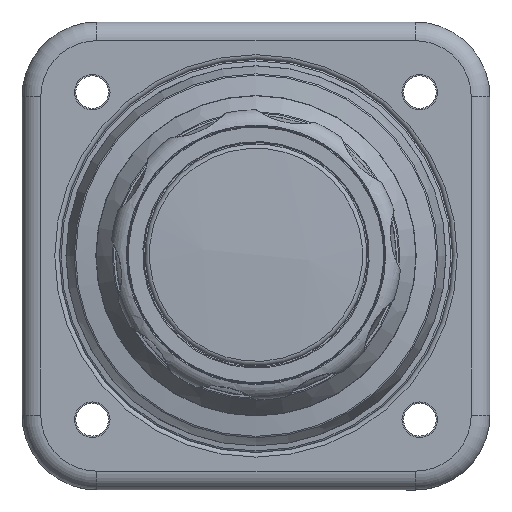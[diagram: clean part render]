
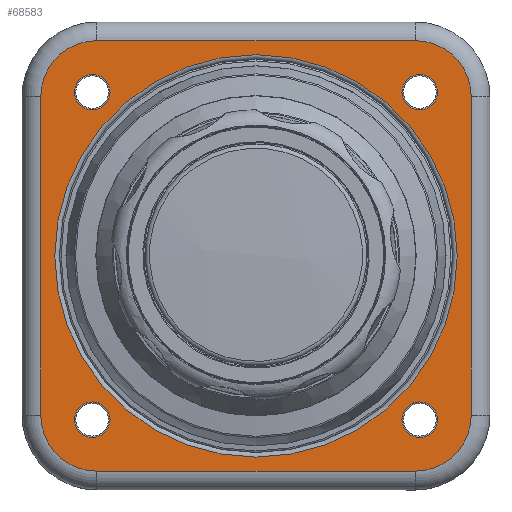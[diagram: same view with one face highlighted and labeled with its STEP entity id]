
A CAD part, top view. The second image highlights one B-rep face of the part: STEP entity #68583.
In plain terms, the highlighted planar face has unit normal (0, 0, 1).
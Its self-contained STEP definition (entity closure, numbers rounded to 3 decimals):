
#352=FACE_BOUND('',#9676,.T.);
#353=FACE_BOUND('',#9677,.T.);
#354=FACE_BOUND('',#9678,.T.);
#355=FACE_BOUND('',#9679,.T.);
#356=FACE_BOUND('',#9680,.T.);
#3024=PLANE('',#72341);
#6062=FACE_OUTER_BOUND('',#9675,.T.);
#9675=EDGE_LOOP('',(#59386,#59387,#59388,#59389,#59390,#59391,#59392,#59393));
#9676=EDGE_LOOP('',(#59394));
#9677=EDGE_LOOP('',(#59395));
#9678=EDGE_LOOP('',(#59396));
#9679=EDGE_LOOP('',(#59397));
#9680=EDGE_LOOP('',(#59398));
#10970=CIRCLE('',#72337,21.5);
#10974=CIRCLE('',#72342,6.);
#10975=CIRCLE('',#72343,6.);
#10976=CIRCLE('',#72344,6.);
#10977=CIRCLE('',#72345,6.);
#10978=CIRCLE('',#72346,1.9);
#10979=CIRCLE('',#72347,1.9);
#10980=CIRCLE('',#72348,1.9);
#10981=CIRCLE('',#72349,1.9);
#19118=LINE('',#106774,#27445);
#19119=LINE('',#106778,#27446);
#19120=LINE('',#106782,#27447);
#19121=LINE('',#106785,#27448);
#27445=VECTOR('',#87197,10.);
#27446=VECTOR('',#87200,10.);
#27447=VECTOR('',#87203,10.);
#27448=VECTOR('',#87206,10.);
#33488=VERTEX_POINT('',#106762);
#33491=VERTEX_POINT('',#106770);
#33492=VERTEX_POINT('',#106771);
#33493=VERTEX_POINT('',#106773);
#33494=VERTEX_POINT('',#106775);
#33495=VERTEX_POINT('',#106777);
#33496=VERTEX_POINT('',#106779);
#33497=VERTEX_POINT('',#106781);
#33498=VERTEX_POINT('',#106783);
#33499=VERTEX_POINT('',#106786);
#33500=VERTEX_POINT('',#106788);
#33501=VERTEX_POINT('',#106790);
#33502=VERTEX_POINT('',#106792);
#42336=EDGE_CURVE('',#33488,#33488,#10970,.T.);
#42340=EDGE_CURVE('',#33491,#33492,#10974,.T.);
#42341=EDGE_CURVE('',#33493,#33491,#19118,.T.);
#42342=EDGE_CURVE('',#33494,#33493,#10975,.T.);
#42343=EDGE_CURVE('',#33495,#33494,#19119,.T.);
#42344=EDGE_CURVE('',#33496,#33495,#10976,.T.);
#42345=EDGE_CURVE('',#33497,#33496,#19120,.T.);
#42346=EDGE_CURVE('',#33498,#33497,#10977,.T.);
#42347=EDGE_CURVE('',#33492,#33498,#19121,.T.);
#42348=EDGE_CURVE('',#33499,#33499,#10978,.T.);
#42349=EDGE_CURVE('',#33500,#33500,#10979,.T.);
#42350=EDGE_CURVE('',#33501,#33501,#10980,.T.);
#42351=EDGE_CURVE('',#33502,#33502,#10981,.T.);
#59386=ORIENTED_EDGE('',*,*,#42340,.F.);
#59387=ORIENTED_EDGE('',*,*,#42341,.F.);
#59388=ORIENTED_EDGE('',*,*,#42342,.F.);
#59389=ORIENTED_EDGE('',*,*,#42343,.F.);
#59390=ORIENTED_EDGE('',*,*,#42344,.F.);
#59391=ORIENTED_EDGE('',*,*,#42345,.F.);
#59392=ORIENTED_EDGE('',*,*,#42346,.F.);
#59393=ORIENTED_EDGE('',*,*,#42347,.F.);
#59394=ORIENTED_EDGE('',*,*,#42348,.T.);
#59395=ORIENTED_EDGE('',*,*,#42349,.T.);
#59396=ORIENTED_EDGE('',*,*,#42350,.T.);
#59397=ORIENTED_EDGE('',*,*,#42351,.T.);
#59398=ORIENTED_EDGE('',*,*,#42336,.F.);
#68583=ADVANCED_FACE('',(#6062,#352,#353,#354,#355,#356),#3024,.T.);
#72337=AXIS2_PLACEMENT_3D('',#106763,#87185,#87186);
#72341=AXIS2_PLACEMENT_3D('',#106769,#87193,#87194);
#72342=AXIS2_PLACEMENT_3D('',#106772,#87195,#87196);
#72343=AXIS2_PLACEMENT_3D('',#106776,#87198,#87199);
#72344=AXIS2_PLACEMENT_3D('',#106780,#87201,#87202);
#72345=AXIS2_PLACEMENT_3D('',#106784,#87204,#87205);
#72346=AXIS2_PLACEMENT_3D('',#106787,#87207,#87208);
#72347=AXIS2_PLACEMENT_3D('',#106789,#87209,#87210);
#72348=AXIS2_PLACEMENT_3D('',#106791,#87211,#87212);
#72349=AXIS2_PLACEMENT_3D('',#106793,#87213,#87214);
#87185=DIRECTION('center_axis',(0.,0.,
1.));
#87186=DIRECTION('ref_axis',(0.,1.,0.));
#87193=DIRECTION('center_axis',(0.,0.,
1.));
#87194=DIRECTION('ref_axis',(0.,-1.,0.));
#87195=DIRECTION('center_axis',(0.,0.,
-1.));
#87196=DIRECTION('ref_axis',(-0.707,-0.707,0.));
#87197=DIRECTION('',(-1.,0.,0.));
#87198=DIRECTION('center_axis',(0.,0.,
-1.));
#87199=DIRECTION('ref_axis',(0.707,-0.707,0.));
#87200=DIRECTION('',(0.,-1.,0.));
#87201=DIRECTION('center_axis',(0.,0.,
-1.));
#87202=DIRECTION('ref_axis',(0.707,0.707,0.));
#87203=DIRECTION('',(1.,0.,0.));
#87204=DIRECTION('center_axis',(0.,0.,
-1.));
#87205=DIRECTION('ref_axis',(-0.707,0.707,0.));
#87206=DIRECTION('',(0.,1.,0.));
#87207=DIRECTION('center_axis',(0.,0.,
-1.));
#87208=DIRECTION('ref_axis',(-1.,0.,0.));
#87209=DIRECTION('center_axis',(0.,0.,
-1.));
#87210=DIRECTION('ref_axis',(0.,1.,0.));
#87211=DIRECTION('center_axis',(0.,0.,
-1.));
#87212=DIRECTION('ref_axis',(1.,0.,0.));
#87213=DIRECTION('center_axis',(0.,0.,
-1.));
#87214=DIRECTION('ref_axis',(0.,-1.,0.));
#106762=CARTESIAN_POINT('',(0.,-21.5,6.1));
#106763=CARTESIAN_POINT('Origin',(0.,0.,
6.1));
#106769=CARTESIAN_POINT('Origin',(0.,0.,
6.1));
#106770=CARTESIAN_POINT('',(-17.,-23.,6.1));
#106771=CARTESIAN_POINT('',(-23.,-17.,6.1));
#106772=CARTESIAN_POINT('Origin',(-17.,-17.,6.1));
#106773=CARTESIAN_POINT('',(17.,-23.,6.1));
#106774=CARTESIAN_POINT('',(12.5,-23.,6.1));
#106775=CARTESIAN_POINT('',(23.,-17.,6.1));
#106776=CARTESIAN_POINT('Origin',(17.,-17.,6.1));
#106777=CARTESIAN_POINT('',(23.,17.,6.1));
#106778=CARTESIAN_POINT('',(23.,12.5,6.1));
#106779=CARTESIAN_POINT('',(17.,23.,6.1));
#106780=CARTESIAN_POINT('Origin',(17.,17.,6.1));
#106781=CARTESIAN_POINT('',(-17.,23.,6.1));
#106782=CARTESIAN_POINT('',(-12.5,23.,6.1));
#106783=CARTESIAN_POINT('',(-23.,17.,6.1));
#106784=CARTESIAN_POINT('Origin',(-17.,17.,6.1));
#106785=CARTESIAN_POINT('',(-23.,-12.5,6.1));
#106786=CARTESIAN_POINT('',(19.4,17.5,6.1));
#106787=CARTESIAN_POINT('Origin',(17.5,17.5,6.1));
#106788=CARTESIAN_POINT('',(17.5,-19.4,6.1));
#106789=CARTESIAN_POINT('Origin',(17.5,-17.5,6.1));
#106790=CARTESIAN_POINT('',(-19.4,-17.5,6.1));
#106791=CARTESIAN_POINT('Origin',(-17.5,-17.5,6.1));
#106792=CARTESIAN_POINT('',(-17.5,19.4,6.1));
#106793=CARTESIAN_POINT('Origin',(-17.5,17.5,6.1));
